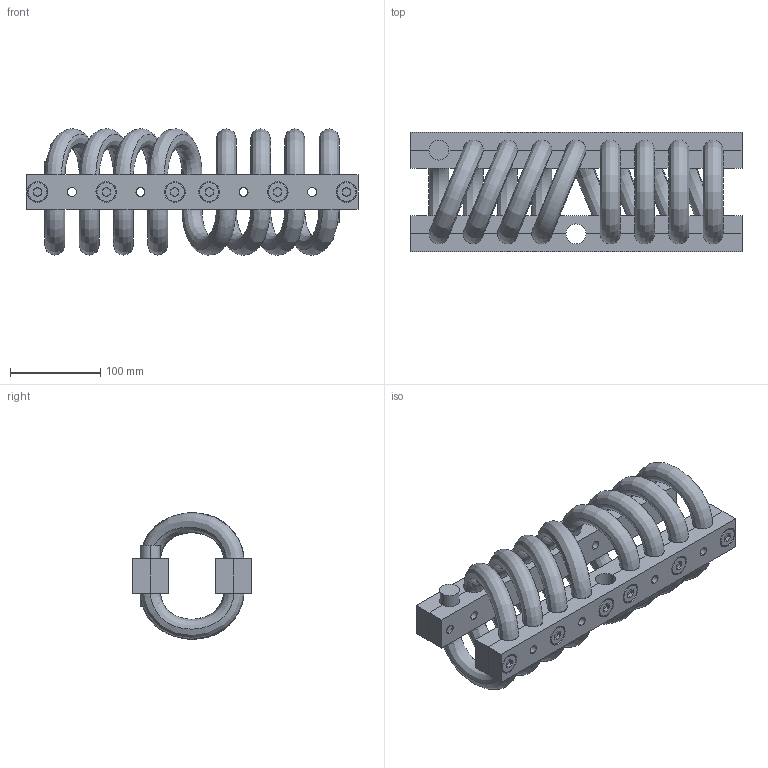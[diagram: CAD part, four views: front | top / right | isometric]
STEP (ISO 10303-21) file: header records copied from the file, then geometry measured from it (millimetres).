
FILE_DESCRIPTION (( 'STEP AP214' ), '1' );
FILE_NAME ('WR28-200-8DM.STEP', '2018-12-07T10:12:08', ( 'user' ), ( 'Microsoft' ), 'SwSTEP 2.0', 'SolidWorks 2016', '' );
FILE_SCHEMA (( 'AUTOMOTIVE_DESIGN' ));
Length unit declared in the file: millimetre
Products named in the file (1): WR28-200-8DM
Bounding box: 368.3 x 133 x 140.46 mm (x, y, z)
Volume: 2030359.3 mm3; surface area: 458812.1 mm2
Topology: 34 solids, 34 shells, 664 faces, 1540 edges, 980 vertices
Faces by surface type: plane 300, cylinder 258, cone 72, bspline 34
Entity records: 40084 total; most frequent: CARTESIAN_POINT 23598, DIRECTION 3148, ORIENTED_EDGE 3080, EDGE_CURVE 1540, AXIS2_PLACEMENT_3D 1151, VERTEX_POINT 980, LINE 846, VECTOR 846
